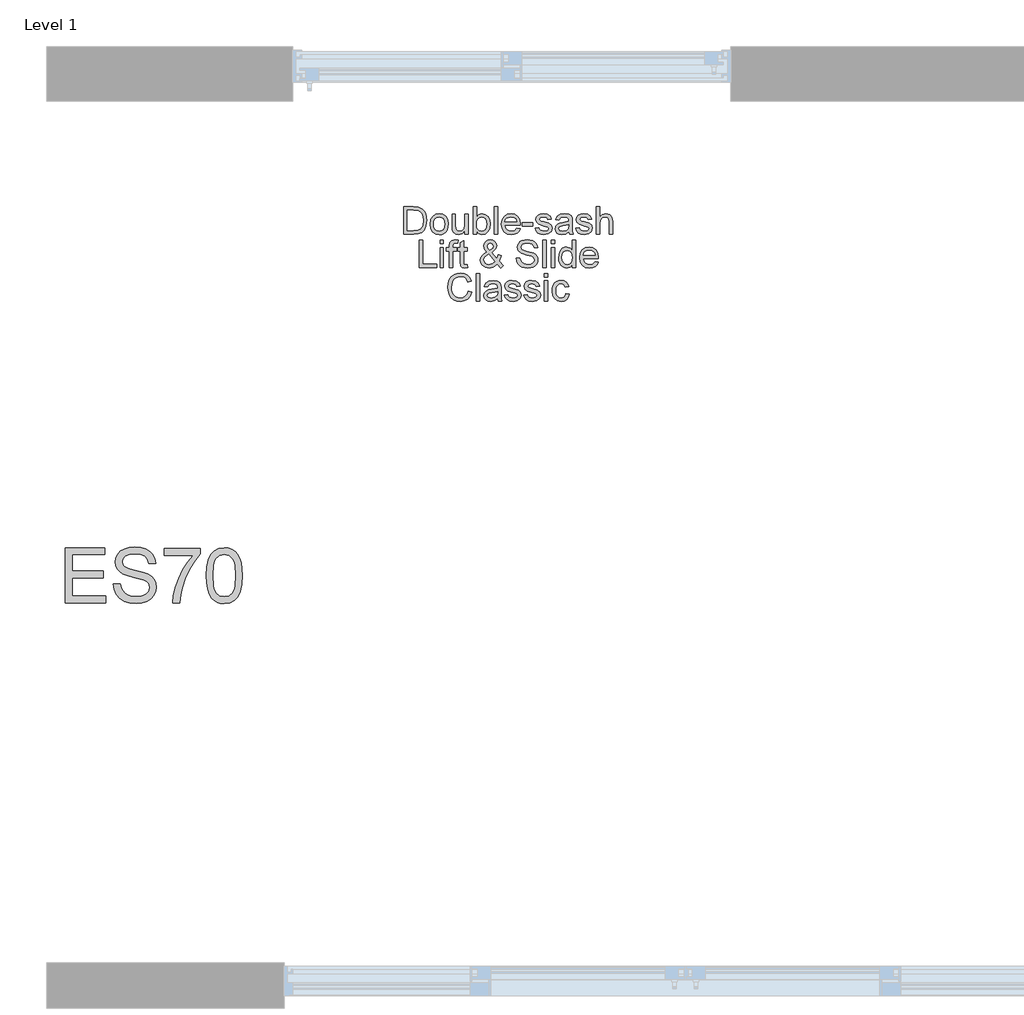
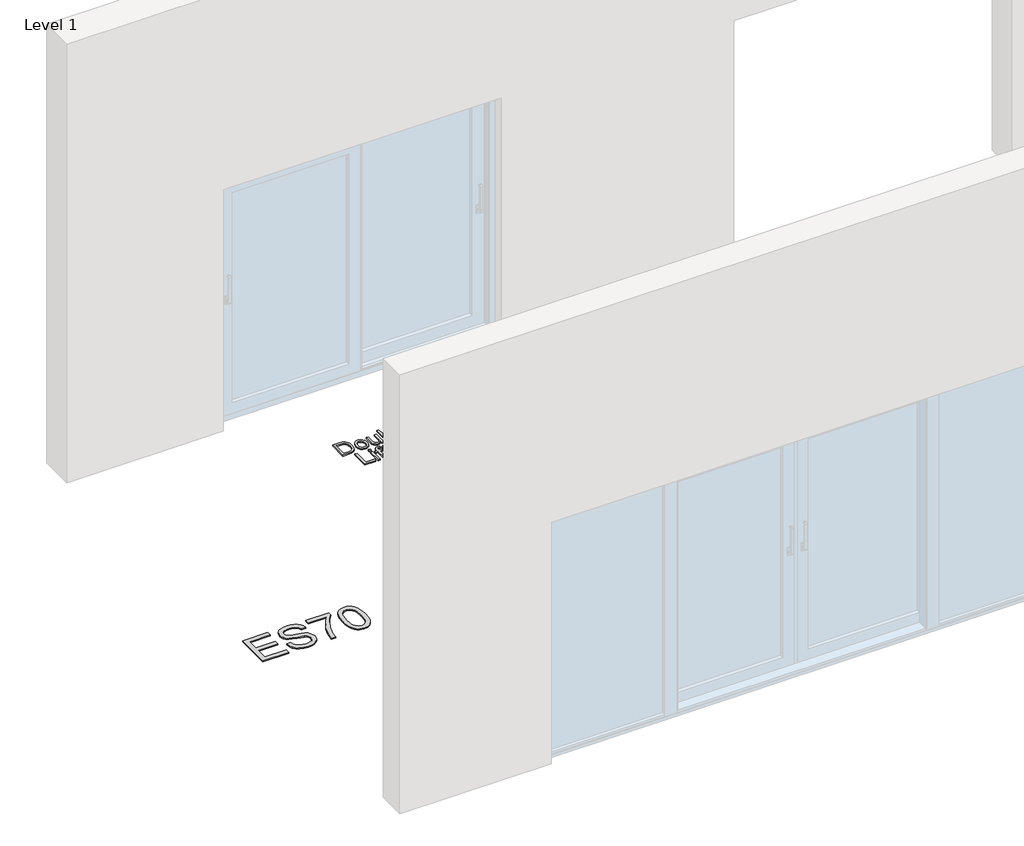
# One storey, part 2 of 13: 2 proxies.
"""IFC4 building model written with IfcOpenShell, lengths in millimetres."""

import ifcopenshell
import ifcopenshell.guid

model = None  # the IFC model being written
_history = None  # IfcOwnerHistory: only IFC2X3 demands one
_inside = {}  # id of a spatial element -> (the spatial element, [elements in it])
_under = {}  # id of a project, library or spatial element -> (it, [spatial elements below it])
_declared = {}  # id of a project -> (the project, [libraries it declares])
_typed = {}  # id of a type object -> (the type object, [elements of that type])
_made_of = {}  # id of a material, layer set ... -> (it, [elements and type objects made of it])


def new_model(schema):
    """Start an empty IFC model of exactly this schema.

    Asked for "IFC4X3", IfcOpenShell would pick the latest addendum, in which some entities
    have other attributes; the version numbers below select the first issue.
    IFC2X3 requires an IfcOwnerHistory on every rooted entity: one is made here for all.
    """
    global model, _history
    if schema == "IFC4X3":
        model = ifcopenshell.file(schema_version=(4, 3, 0, 0))
    else:
        model = ifcopenshell.file(schema=schema)
    _inside.clear()
    _under.clear()
    _declared.clear()
    _typed.clear()
    _made_of.clear()
    _history = None
    if model.schema == "IFC2X3":
        org = make("IfcOrganization", Name="unknown")
        user = make(
            "IfcPersonAndOrganization",
            ThePerson=make("IfcPerson", FamilyName="unknown"),
            TheOrganization=org,
        )
        app = make(
            "IfcApplication",
            ApplicationDeveloper=org,
            Version="unknown",
            ApplicationFullName="unknown",
            ApplicationIdentifier="unknown",
        )
        _history = make(
            "IfcOwnerHistory",
            OwningUser=user,
            OwningApplication=app,
            ChangeAction="ADDED",
            CreationDate=0,
        )
    return model


def make(cls, **values):
    """One entity of the class cls with the attributes given. An attribute that is None is left unset."""
    return model.create_entity(
        cls, **{name: value for name, value in values.items() if value is not None}
    )


def rooted(cls, **values):
    """An entity with a GlobalId (a new one), such as an element, a storey or a relation."""
    return make(cls, GlobalId=ifcopenshell.guid.new(), OwnerHistory=_history, **values)


def si_unit(unit_type, name, prefix=None):
    """IfcSIUnit, for example si_unit("LENGTHUNIT", "METRE", prefix="MILLI")."""
    return make("IfcSIUnit", UnitType=unit_type, Prefix=prefix, Name=name)


def assignment(units):
    """IfcUnitAssignment: the units of a project."""
    return None if units is None else make("IfcUnitAssignment", Units=units)


def point(xyz):
    """IfcCartesianPoint."""
    return None if xyz is None else make("IfcCartesianPoint", Coordinates=xyz)


def direction(xyz):
    """IfcDirection."""
    return None if xyz is None else make("IfcDirection", DirectionRatios=xyz)


def frame(location, z_axis=None, x_axis=None):
    """IfcAxis2Placement3D, a coordinate frame: its origin and axes. An axis left out is left unset."""
    return make(
        "IfcAxis2Placement3D",
        Location=point(location),
        Axis=direction(z_axis),
        RefDirection=direction(x_axis),
    )


def origin():
    """The frame at (0, 0, 0) with its axes left unset."""
    return frame((0.0, 0.0, 0.0))


def origin_with_axes():
    """The frame at (0, 0, 0) with the z axis (0, 0, 1) and the x axis (1, 0, 0) written out."""
    return frame((0.0, 0.0, 0.0), z_axis=(0.0, 0.0, 1.0), x_axis=(1.0, 0.0, 0.0))


def place(relative_to, where):
    """IfcLocalPlacement: puts the frame where relative to a parent placement (None: the world)."""
    return make(
        "IfcLocalPlacement", PlacementRelTo=relative_to, RelativePlacement=where
    )


def context(
    kind, dimensions, precision=None, world=None, true_north=None, identifier=None
):
    """IfcGeometricRepresentationContext, for example the 3D "Model" context."""
    return make(
        "IfcGeometricRepresentationContext",
        ContextIdentifier=identifier,
        ContextType=kind,
        CoordinateSpaceDimension=dimensions,
        Precision=precision,
        WorldCoordinateSystem=world,
        TrueNorth=true_north,
    )


def project(units=None, contexts=None):
    """IfcProject with its units and contexts."""
    return rooted(
        "IfcProject",
        Name="project",
        RepresentationContexts=contexts,
        UnitsInContext=assignment(units),
    )


def spatial(cls, under=None, at=None, **own):
    """A site, building, storey or space (cls), placed at a placement, below another one or the project."""
    s = rooted(cls, ObjectPlacement=at, **own)
    if under is not None:
        _under.setdefault(under.id(), (under, []))[1].append(s)
    return s


def polyline(points):
    """IfcPolyline through the points."""
    return make("IfcPolyline", Points=[point(p) for p in points])


def outline(outer, holes=None, kind="AREA"):
    """IfcArbitraryClosedProfileDef: a profile drawn as a closed curve; with holes, ...WithVoids."""
    if holes is None:
        return make("IfcArbitraryClosedProfileDef", ProfileType=kind, OuterCurve=outer)
    return make(
        "IfcArbitraryProfileDefWithVoids",
        ProfileType=kind,
        OuterCurve=outer,
        InnerCurves=holes,
    )


def extrude(swept, where, along, depth):
    """IfcExtrudedAreaSolid: the profile swept, set in the frame where, extruded along a direction by depth."""
    return make(
        "IfcExtrudedAreaSolid",
        SweptArea=swept,
        Position=where,
        ExtrudedDirection=direction(along),
        Depth=depth,
    )


def shape(context_of_items, identifier, shape_type, items):
    """IfcShapeRepresentation: the items that make up one representation, for example the "Body"."""
    return make(
        "IfcShapeRepresentation",
        ContextOfItems=context_of_items,
        RepresentationIdentifier=identifier,
        RepresentationType=shape_type,
        Items=items,
    )


def made_of(thing, what):
    """Note that an element or type object is made of a material, layer set ...; save() writes the relation."""
    if what is not None:
        _made_of.setdefault(what.id(), (what, []))[1].append(thing)
    return thing


def element(
    cls,
    number,
    at=None,
    inside=None,
    cuts=None,
    type_object=None,
    material=None,
    context=None,
    identifier="Body",
    shape_type=None,
    held_by="IfcProductDefinitionShape",
    body=None,
    shapes=None,
    **own,
):
    """One element of the class cls, such as IfcWall. Its Tag is "e" and its number.

    at: its placement. inside: the storey or other place that contains it. cuts: it is an
    opening in that element (IfcRelVoidsElement). A single representation is given by context,
    identifier, shape_type and body (its items); several are given by shapes. held_by: the class
    of the entity that holds the representations. save() writes the other relations.
    """
    e = rooted(cls, Tag="e%d" % number, ObjectPlacement=at, **own)
    if body is not None:
        shapes = [shape(context, identifier, shape_type, body)]
    if shapes is not None:
        e.Representation = make(held_by, Representations=shapes)
    if inside is not None:
        _inside.setdefault(inside.id(), (inside, []))[1].append(e)
    if cuts is not None:
        rooted(
            "IfcRelVoidsElement", RelatingBuildingElement=cuts, RelatedOpeningElement=e
        )
    if type_object is not None:
        _typed.setdefault(type_object.id(), (type_object, []))[1].append(e)
    return made_of(e, material)


def aggregate(whole, parts):
    """IfcRelAggregates: a whole, such as a stair, and the parts it consists of."""
    return rooted("IfcRelAggregates", RelatingObject=whole, RelatedObjects=parts)


def save(model, path):
    """Write the relations noted so far, then the file.

    IfcRelAggregates (storeys below a building ...), IfcRelContainedInSpatialStructure (elements
    in a storey), IfcRelDefinesByType, IfcRelAssociatesMaterial and IfcRelDeclares: one each for
    every whole, place, type object, material and project.
    """
    for whole, parts in _under.values():
        aggregate(whole, parts)
    for where, things in _inside.values():
        rooted(
            "IfcRelContainedInSpatialStructure",
            RelatedElements=things,
            RelatingStructure=where,
        )
    for kind, things in _typed.values():
        rooted("IfcRelDefinesByType", RelatedObjects=things, RelatingType=kind)
    for what, things in _made_of.values():
        rooted("IfcRelAssociatesMaterial", RelatedObjects=things, RelatingMaterial=what)
    for by, libraries in _declared.values():
        rooted("IfcRelDeclares", RelatingContext=by, RelatedDefinitions=libraries)
    model.write(path)


model = new_model("IFC4")

# Units and contexts
model_context = context("Model", 3, world=origin())
ifc_project = project(units=[si_unit("LENGTHUNIT", "METRE", prefix="MILLI")], contexts=[model_context])

# Site, building, storey
site = spatial("IfcSite", under=ifc_project)
building = spatial("IfcBuilding", under=site)
storey = spatial("IfcBuildingStorey", under=building, Name="Level 1", Elevation=0.0)

# Proxies
placement = place(None, origin())
element("IfcBuildingElementProxy", 1, Name="150mm Arial", ObjectType="150mm Arial", at=placement, inside=storey, context=model_context, shape_type="SweptSolid", body=[
    extrude(outline(polyline([(-6211.5990485, -897.6627533), (-6211.5990485, -746.9782881), (-6159.6173226, -746.9782881), (-6132.7251487, -749.1487919), (-6110.5786526, -759.9277343), (-6100.1583951, -771.4056526), (-6092.7363758, -785.679474), (-6088.2942007, -802.4732871), (-6086.8134757, -821.5111803), (-6090.8233895, -851.9166272), (-6101.1240853, -873.8607883), (-6114.8828719, -887.5276044), (-6132.8906956, -895.0875794), (-6157.115725, -897.6627533), (-6211.5990485, -897.6627533)]), holes=[polyline([(-6192.7634903, -878.8271952), (-6159.4333816, -878.8271952), (-6135.1899581, -876.1048684), (-6121.2104423, -868.4161347), (-6109.7509181, -849.7093353), (-6105.6490339, -821.2168747), (-6107.6585893, -800.6890594), (-6113.6872555, -785.5323212), (-6122.5945983, -775.1212607), (-6133.2401835, -768.8304786), (-6159.9484164, -765.8138463), (-6192.7634903, -765.8138463), (-6192.7634903, -878.8271952)])]), origin_with_axes(), (0.0, 0.0, 1.0), 10.0),
    extrude(outline(polyline([(-6067.9779176, -842.3333013), (-6063.9036245, -815.6526596), (-6051.6807452, -796.8998749), (-6036.5791893, -787.712022), (-6018.4977892, -784.6494044), (-5998.7103364, -788.3788081), (-5982.9052062, -799.5670193), (-5972.5447295, -817.3311212), (-5969.0912373, -840.7881969), (-5970.6179475, -859.8168931), (-5975.1980784, -874.3022466), (-5982.6982726, -885.150167), (-5992.9851728, -893.2665635), (-6005.2034536, -898.3295395), (-6018.4977892, -900.0171981), (-6038.5243653, -896.30159), (-6054.3111014, -885.1547655), (-6064.5612135, -867.0181831), (-6067.9779176, -842.3333013)]), holes=[polyline([(-6049.1423594, -842.2965131), (-6046.9626586, -859.343245), (-6040.4235561, -871.4879494), (-6030.5827127, -878.7582173), (-6018.4977892, -881.18164), (-6006.468048, -878.7444217), (-5996.6455987, -871.4327671), (-5990.1064962, -859.1271143), (-5987.9267954, -841.7079019), (-5990.1202918, -825.1578106), (-5996.700781, -813.1786531), (-6006.5370258, -805.9083852), (-6018.4977892, -803.4849626), (-6030.5827127, -805.8991882), (-6040.4235561, -813.141865), (-6046.9626586, -825.2589782), (-6049.1423594, -842.2965131)])]), origin_with_axes(), (0.0, 0.0, 1.0), 10.0),
    extrude(outline(polyline([(-5877.2678913, -897.6627533), (-5877.2678913, -878.6432542), (-5892.0199593, -894.6737121), (-5911.2601876, -900.0171981), (-5928.9737057, -896.2648018), (-5941.1873879, -886.8470227), (-5946.7975883, -872.9778715), (-5947.9012343, -855.4666885), (-5947.9012343, -787.0038492), (-5929.0656762, -787.0038492), (-5929.0656762, -846.6007324), (-5927.925242, -865.8041726), (-5920.4756316, -877.0797557), (-5906.4409335, -881.18164), (-5890.7139782, -876.9877852), (-5880.3213118, -865.5650493), (-5877.2678913, -844.5773814), (-5877.2678913, -787.0038492), (-5858.4323331, -787.0038492), (-5858.4323331, -897.6627533), (-5877.2678913, -897.6627533)])), origin_with_axes(), (0.0, 0.0, 1.0), 10.0),
    extrude(outline(polyline([(-5813.6978825, -897.6627533), (-5832.5334406, -897.6627533), (-5832.5334406, -746.9782881), (-5813.6978825, -746.9782881), (-5813.6978825, -802.8595632), (-5800.509313, -789.2019441), (-5784.1201701, -784.6494044), (-5765.2478237, -788.7512887), (-5750.6061203, -800.2843892), (-5741.6114055, -818.2186365), (-5738.3556499, -840.6778323), (-5741.7263687, -865.8225667), (-5751.838525, -884.5293661), (-5766.677965, -896.1452401), (-5784.2305347, -900.0171981), (-5800.9783625, -895.0232), (-5813.6978825, -880.0412058), (-5813.6978825, -897.6627533)]), holes=[polyline([(-5813.6978825, -841.5607491), (-5812.4102955, -857.2693103), (-5808.5475346, -867.9010999), (-5798.6791, -877.861505), (-5785.8492155, -881.18164), (-5774.9783025, -878.7352247), (-5765.6892821, -871.3959789), (-5759.3157266, -859.2098878), (-5757.191208, -842.2229367), (-5759.2283546, -824.9876652), (-5765.3397942, -812.9395299), (-5774.3391075, -805.8486044), (-5785.0398751, -803.4849626), (-5795.910788, -805.9313778), (-5805.1998084, -813.2706236), (-5811.573364, -825.2359855), (-5813.6978825, -841.5607491)])]), origin_with_axes(), (0.0, 0.0, 1.0), 10.0),
    extrude(outline(polyline([(-5717.165647, -897.6627533), (-5717.165647, -746.9782881), (-5698.3300888, -746.9782881), (-5698.3300888, -897.6627533), (-5717.165647, -897.6627533)])), origin_with_axes(), (0.0, 0.0, 1.0), 10.0),
    extrude(outline(polyline([(-5592.6008034, -864.7005266), (-5574.1331272, -867.0549713), (-5580.7871928, -880.9701078), (-5591.4051869, -891.3719712), (-5605.7479862, -897.8558914), (-5623.5764674, -900.0171981), (-5645.6769782, -896.2877944), (-5662.6823235, -885.0995832), (-5673.5256453, -867.1791315), (-5677.1400859, -843.2530063), (-5673.4888571, -818.5221391), (-5662.5351707, -800.0268718), (-5645.7597517, -788.4937713), (-5624.6433252, -784.6494044), (-5604.1844877, -788.4845742), (-5587.8367316, -799.9900836), (-5577.1175699, -818.4485627), (-5573.544516, -843.1426417), (-5573.6548806, -848.2194132), (-5658.3045277, -848.2194132), (-5655.0441735, -862.3184907), (-5647.470403, -872.6835659), (-5636.5397092, -879.0571214), (-5623.2085854, -881.18164), (-5604.7409092, -877.2453026), (-5592.6008034, -864.7005266)]), holes=[polyline([(-5658.3045277, -829.383855), (-5592.3800742, -829.383855), (-5594.927657, -819.4326471), (-5599.9216551, -812.3141305), (-5610.9029326, -805.6922545), (-5624.7169016, -803.4849626), (-5637.4134289, -805.2461976), (-5647.9118614, -810.5299028), (-5655.2097204, -818.765861), (-5658.3045277, -829.383855)])]), origin_with_axes(), (0.0, 0.0, 1.0), 10.0),
    extrude(outline(polyline([(-5564.126737, -852.9283027), (-5564.126737, -834.0927446), (-5505.2656177, -834.0927446), (-5505.2656177, -852.9283027), (-5564.126737, -852.9283027)])), origin_with_axes(), (0.0, 0.0, 1.0), 10.0),
    extrude(outline(polyline([(-5491.1389491, -864.7005266), (-5472.303391, -862.3460818), (-5469.3327439, -870.4026975), (-5463.5845877, -876.3255976), (-5443.6085953, -881.18164), (-5424.4051552, -876.7302678), (-5418.1511613, -866.2824192), (-5419.7238568, -861.4815591), (-5424.4419434, -857.8211333), (-5443.8293245, -852.4500561), (-5472.1930264, -843.2346122), (-5484.5722555, -832.4740638), (-5488.7845044, -817.2805374), (-5485.39999, -803.2458393), (-5476.1661519, -792.5220791), (-5464.191593, -786.9486669), (-5447.9863911, -784.6494044), (-5425.0673428, -788.3466185), (-5410.4992158, -798.3530087), (-5404.0244927, -815.2571864), (-5422.8600508, -817.6116312), (-5429.9417792, -807.2189648), (-5446.5148631, -803.4849626), (-5464.5410809, -807.0534179), (-5469.9489462, -815.367551), (-5467.704866, -820.8489927), (-5460.6783199, -825.0060593), (-5444.4547239, -829.015973), (-5416.808392, -837.8819291), (-5403.9693104, -847.9251076), (-5399.3156031, -864.2958564), (-5404.7786508, -882.3220741), (-5420.5423942, -895.4002791), (-5443.8661127, -900.0171981), (-5462.8580207, -897.791512), (-5476.7179749, -891.1144538), (-5485.9702071, -880.0595999), (-5491.1389491, -864.7005266)])), origin_with_axes(), (0.0, 0.0, 1.0), 10.0),
    extrude(outline(polyline([(-5307.4922571, -883.5360847), (-5325.7575982, -896.30159), (-5345.9359256, -900.0171981), (-5361.6766765, -897.782315), (-5373.287952, -891.0776656), (-5380.4478553, -880.8965314), (-5382.8344897, -868.2321937), (-5379.2292462, -853.3329729), (-5369.7562848, -842.5172423), (-5356.5677153, -836.3368247), (-5340.2705429, -833.5041334), (-5307.6026217, -827.0294103), (-5307.4922571, -822.8355555), (-5308.7890412, -814.4294519), (-5312.6793933, -808.9296161), (-5321.3798024, -804.846126), (-5333.5015142, -803.4849626), (-5352.5578015, -807.1086002), (-5361.6444868, -819.966076), (-5380.480045, -817.6116312), (-5372.3314588, -799.2175314), (-5355.9239218, -788.438589), (-5331.073493, -784.6494044), (-5308.2464152, -787.9971306), (-5295.3521513, -796.4032342), (-5289.576404, -809.1871335), (-5288.656699, -825.6682469), (-5288.656699, -849.10233), (-5287.7002058, -881.8254334), (-5283.9478094, -897.6627533), (-5302.7833676, -897.6627533), (-5307.4922571, -883.5360847)]), holes=[polyline([(-5307.4922571, -845.8649684), (-5337.8793099, -851.6407157), (-5354.0845118, -854.6941363), (-5361.4237576, -859.6605432), (-5363.9989316, -866.9078185), (-5358.3887312, -877.0981498), (-5341.9260119, -881.18164), (-5322.8697245, -876.6750855), (-5310.5824659, -865.7673844), (-5307.6026217, -851.1992574), (-5307.4922571, -845.8649684)])]), origin_with_axes(), (0.0, 0.0, 1.0), 10.0),
    extrude(outline(polyline([(-5269.8211408, -864.7005266), (-5250.9855827, -862.3460818), (-5248.0149356, -870.4026975), (-5242.2667794, -876.3255976), (-5222.290787, -881.18164), (-5203.0873469, -876.7302678), (-5196.833353, -866.2824192), (-5198.4060485, -861.4815591), (-5203.1241351, -857.8211333), (-5222.5115162, -852.4500561), (-5250.8752181, -843.2346122), (-5263.2544472, -832.4740638), (-5267.4666961, -817.2805374), (-5264.0821817, -803.2458393), (-5254.8483436, -792.5220791), (-5242.8737847, -786.9486669), (-5226.6685828, -784.6494044), (-5203.7495345, -788.3466185), (-5189.1814075, -798.3530087), (-5182.7066844, -815.2571864), (-5201.5422425, -817.6116312), (-5208.6239709, -807.2189648), (-5225.1970548, -803.4849626), (-5243.2232726, -807.0534179), (-5248.6311379, -815.367551), (-5246.3870577, -820.8489927), (-5239.3605116, -825.0060593), (-5223.1369156, -829.015973), (-5195.4905837, -837.8819291), (-5182.6515021, -847.9251076), (-5177.9977948, -864.2958564), (-5183.4608425, -882.3220741), (-5199.2245859, -895.4002791), (-5222.5483044, -900.0171981), (-5241.5402124, -897.791512), (-5255.4001666, -891.1144538), (-5264.6523988, -880.0595999), (-5269.8211408, -864.7005266)])), origin_with_axes(), (0.0, 0.0, 1.0), 10.0),
    extrude(outline(polyline([(-5156.8077919, -897.6627533), (-5156.8077919, -746.9782881), (-5137.9722338, -746.9782881), (-5137.9722338, -802.3813166), (-5123.2845451, -789.0823825), (-5105.193948, -784.6494044), (-5084.0407333, -789.4870527), (-5071.2016516, -802.8595632), (-5067.3388907, -827.6180215), (-5067.3388907, -897.6627533), (-5086.1744488, -897.6627533), (-5086.1744488, -829.567796), (-5087.673568, -817.7771781), (-5092.1709254, -809.7021683), (-5099.4182007, -805.039264), (-5109.1670735, -803.4849626), (-5124.5997232, -807.6788173), (-5134.9004191, -819.046371), (-5137.9722338, -838.8752105), (-5137.9722338, -897.6627533), (-5156.8077919, -897.6627533)])), origin_with_axes(), (0.0, 0.0, 1.0), 10.0),
    extrude(outline(polyline([(-6126.8390368, -1080.6249801), (-6126.8390368, -929.9405149), (-6108.0034786, -929.9405149), (-6108.0034786, -1061.789422), (-6032.661246, -1061.789422), (-6032.661246, -1080.6249801), (-6126.8390368, -1080.6249801)])), origin_with_axes(), (0.0, 0.0, 1.0), 10.0),
    extrude(outline(polyline([(-6013.8256879, -948.776073), (-6013.8256879, -929.9405149), (-5994.9901297, -929.9405149), (-5994.9901297, -948.776073), (-6013.8256879, -948.776073)])), origin_with_axes(), (0.0, 0.0, 1.0), 10.0),
    extrude(outline(polyline([(-6013.8256879, -1080.6249801), (-6013.8256879, -969.966076), (-5994.9901297, -969.966076), (-5994.9901297, -1080.6249801), (-6013.8256879, -1080.6249801)])), origin_with_axes(), (0.0, 0.0, 1.0), 10.0),
    extrude(outline(polyline([(-5962.0279029, -1080.6249801), (-5962.0279029, -988.8016341), (-5978.5090163, -988.8016341), (-5978.5090163, -969.966076), (-5962.0279029, -969.966076), (-5962.0279029, -958.8192515), (-5960.0413402, -943.1106903), (-5950.4028319, -931.8902895), (-5931.4201209, -927.5860701), (-5914.2400318, -929.6462093), (-5916.9991467, -947.3045451), (-5927.8516656, -946.4216283), (-5939.7158599, -949.5486252), (-5943.1923448, -961.2104845), (-5943.1923448, -969.966076), (-5922.0023419, -969.966076), (-5922.0023419, -988.8016341), (-5943.1923448, -988.8016341), (-5943.1923448, -1080.6249801), (-5962.0279029, -1080.6249801)])), origin_with_axes(), (0.0, 0.0, 1.0), 10.0),
    extrude(outline(polyline([(-5865.4956674, -1064.9164189), (-5863.1412226, -1081.1768031), (-5877.2311031, -1082.9794249), (-5893.0132407, -1079.8524279), (-5900.8859153, -1071.6486594), (-5903.1667837, -1050.2747155), (-5903.1667837, -988.8016341), (-5917.2934523, -988.8016341), (-5917.2934523, -969.966076), (-5903.1667837, -969.966076), (-5903.1667837, -943.0739021), (-5884.3312256, -932.0006541), (-5884.3312256, -969.966076), (-5865.4956674, -969.966076), (-5865.4956674, -988.8016341), (-5884.3312256, -988.8016341), (-5884.3312256, -1049.7228925), (-5883.3379442, -1059.4349772), (-5880.1189767, -1062.8746738), (-5873.6994359, -1064.1438667), (-5865.4956674, -1064.9164189)])), origin_with_axes(), (0.0, 0.0, 1.0), 10.0),
    extrude(outline(polyline([(-5701.3835094, -1062.0101512), (-5721.3595017, -1077.7371064), (-5744.7200084, -1082.9794249), (-5765.5053411, -1079.0982698), (-5781.5082079, -1067.4548047), (-5789.7579617, -1054.054703), (-5792.5078796, -1039.1646793), (-5790.2959891, -1025.9669127), (-5783.6603176, -1014.1119154), (-5772.6284563, -1003.6088844), (-5757.2279962, -994.4670168), (-5770.3797776, -975.4107295), (-5773.6723214, -961.2840609), (-5771.0787533, -948.5645409), (-5763.2980492, -937.6292486), (-5751.5902047, -930.0968647), (-5737.2152157, -927.5860701), (-5723.5392025, -929.9865001), (-5712.6039102, -937.1877902), (-5705.4302113, -947.7552005), (-5703.0389783, -960.2539913), (-5704.8094104, -970.7478252), (-5710.1207067, -980.4507128), (-5731.365892, -997.4836492), (-5704.1058361, -1031.4391574), (-5695.975644, -1010.5802482), (-5677.1400859, -1014.6637384), (-5690.4574141, -1045.6761906), (-5667.7223068, -1068.4848743), (-5681.8489754, -1082.9794249), (-5701.3835094, -1062.0101512)]), holes=[polyline([(-5740.8940356, -985.6010608), (-5725.4062036, -973.9208074), (-5721.8745365, -962.8291653), (-5726.5282437, -951.0017591), (-5738.1717089, -946.4216283), (-5750.0726914, -950.9649709), (-5754.8367633, -962.0566131), (-5753.2180825, -968.9544005), (-5748.3252519, -976.6247401), (-5740.8940356, -985.6010608)]), polyline([(-5714.0018618, -1048.4353055), (-5747.6262762, -1006.4599699), (-5768.3196384, -1022.2421075), (-5773.6723214, -1036.6630817), (-5771.8421085, -1045.5474319), (-5766.3514697, -1054.7628758), (-5757.5039077, -1061.798619), (-5745.6029252, -1064.1438667), (-5728.2940773, -1059.766071), (-5714.0018618, -1048.4353055)])]), origin_with_axes(), (0.0, 0.0, 1.0), 10.0),
    extrude(outline(polyline([(-5594.734519, -1028.8271952), (-5575.8989608, -1028.8271952), (-5569.8289079, -1047.6811474), (-5555.0032635, -1059.6005241), (-5532.415309, -1064.1438667), (-5512.7336222, -1060.7041701), (-5500.0232993, -1051.2496028), (-5495.8478387, -1038.6128563), (-5498.9748356, -1026.8590265), (-5511.777129, -1018.3057701), (-5539.2027318, -1011.1136771), (-5568.7252619, -1001.8246567), (-5584.7465228, -987.8083527), (-5590.0256294, -969.0831592), (-5588.3931531, -958.0512978), (-5583.495724, -947.7643976), (-5575.4621009, -939.0455943), (-5564.4210426, -932.7180239), (-5536.4987991, -927.5860701), (-5506.7003575, -932.9571472), (-5495.2776216, -939.5882202), (-5486.8347298, -948.7392848), (-5481.4912438, -959.840124), (-5479.3667253, -972.3205207), (-5498.2022834, -972.3205207), (-5501.6603742, -961.0817258), (-5508.8708613, -952.9699278), (-5520.1372474, -948.0587031), (-5535.7630351, -946.4216283), (-5551.7567049, -948.040309), (-5562.7287854, -952.8963514), (-5569.0747498, -960.0424591), (-5571.1900713, -968.5313362), (-5569.6909521, -975.7694144), (-5565.1935947, -981.591147), (-5534.43866, -992.1125721), (-5501.1085512, -1001.5671393), (-5490.3709955, -1008.4005474), (-5482.8799983, -1016.8342421), (-5478.47921, -1026.7762531), (-5477.0122805, -1038.1346097), (-5478.6999392, -1049.7458851), (-5483.7629151, -1060.6673819), (-5491.9942748, -1070.0667668), (-5503.1870845, -1077.1117071), (-5516.646967, -1081.5124954), (-5531.679545, -1082.9794249), (-5550.1334256, -1081.3975323), (-5565.3223534, -1076.6518546), (-5577.4210726, -1068.7239976), (-5586.6043269, -1057.5955672), (-5592.4996358, -1044.0391157), (-5594.734519, -1028.8271952)])), origin_with_axes(), (0.0, 0.0, 1.0), 10.0),
    extrude(outline(polyline([(-5451.113388, -1080.6249801), (-5451.113388, -929.9405149), (-5432.2778299, -929.9405149), (-5432.2778299, -1080.6249801), (-5451.113388, -1080.6249801)])), origin_with_axes(), (0.0, 0.0, 1.0), 10.0),
    extrude(outline(polyline([(-5404.0244927, -948.776073), (-5404.0244927, -929.9405149), (-5385.1889345, -929.9405149), (-5385.1889345, -948.776073), (-5404.0244927, -948.776073)])), origin_with_axes(), (0.0, 0.0, 1.0), 10.0),
    extrude(outline(polyline([(-5404.0244927, -1080.6249801), (-5404.0244927, -969.966076), (-5385.1889345, -969.966076), (-5385.1889345, -1080.6249801), (-5404.0244927, -1080.6249801)])), origin_with_axes(), (0.0, 0.0, 1.0), 10.0),
    extrude(outline(polyline([(-5288.656699, -1080.6249801), (-5288.656699, -1062.8562797), (-5301.1187016, -1077.9486386), (-5318.344776, -1082.9794249), (-5330.52167, -1081.158409), (-5341.6684945, -1075.6953614), (-5351.1046677, -1066.9719596), (-5358.1496079, -1055.3698811), (-5362.5366007, -1041.3581756), (-5363.9989316, -1025.4058926), (-5358.6094604, -995.42351), (-5351.8772198, -983.5317245), (-5342.4594408, -974.7853301), (-5331.0688945, -969.4050559), (-5318.4183524, -967.6116312), (-5301.0543222, -972.743585), (-5288.656699, -986.0793073), (-5288.656699, -929.9405149), (-5269.8211408, -929.9405149), (-5269.8211408, -1080.6249801), (-5288.656699, -1080.6249801)]), holes=[polyline([(-5345.1633734, -1025.3323162), (-5343.0388549, -1042.3698511), (-5336.6652993, -1054.4869644), (-5327.4038701, -1061.7296411), (-5316.6157306, -1064.1438667), (-5305.8321896, -1061.8400057), (-5296.8052852, -1054.9284227), (-5290.6938455, -1043.2803591), (-5288.656699, -1026.767056), (-5290.7306337, -1008.7132471), (-5296.952438, -996.1960622), (-5306.2092687, -988.8844076), (-5317.3882828, -986.4471893), (-5328.2867869, -988.7878385), (-5337.2171223, -995.8097861), (-5343.1768107, -1007.871717), (-5345.1633734, -1025.3323162)])]), origin_with_axes(), (0.0, 0.0, 1.0), 10.0),
    extrude(outline(polyline([(-5164.0918554, -1047.6627533), (-5145.6241792, -1050.0171981), (-5152.2782448, -1063.9323346), (-5162.8962389, -1074.334198), (-5177.2390382, -1080.8181182), (-5195.0675194, -1082.9794249), (-5217.1680303, -1079.2500212), (-5234.1733755, -1068.06181), (-5245.0166973, -1050.1413583), (-5248.6311379, -1026.215233), (-5244.9799091, -1001.4843659), (-5234.0262227, -982.9890986), (-5217.2508037, -971.455998), (-5196.1343772, -967.6116312), (-5175.6755397, -971.446801), (-5159.3277836, -982.9523104), (-5148.6086219, -1001.4107895), (-5145.0355681, -1026.1048684), (-5145.1459327, -1031.18164), (-5229.7955797, -1031.18164), (-5226.5352256, -1045.2807174), (-5218.961455, -1055.6457926), (-5208.0307612, -1062.0193482), (-5194.6996374, -1064.1438667), (-5176.2319612, -1060.2075294), (-5164.0918554, -1047.6627533)]), holes=[polyline([(-5229.7955797, -1012.3460818), (-5163.8711262, -1012.3460818), (-5166.418709, -1002.3948738), (-5171.4127071, -995.2763572), (-5182.3939847, -988.6544813), (-5196.2079536, -986.4471893), (-5208.9044809, -988.2084244), (-5219.4029134, -993.4921296), (-5226.7007725, -1001.7280877), (-5229.7955797, -1012.3460818)])]), origin_with_axes(), (0.0, 0.0, 1.0), 10.0),
    extrude(outline(polyline([(-5858.4323331, -1210.0235884), (-5839.596775, -1214.8796307), (-5848.2879871, -1236.8283903), (-5861.9272121, -1252.8634467), (-5879.8430652, -1262.6721004), (-5901.3641619, -1265.9416516), (-5923.2117539, -1263.4676452), (-5940.5619885, -1256.045626), (-5953.8609227, -1243.9331113), (-5963.5546132, -1227.3876186), (-5969.4729148, -1207.9358581), (-5971.445682, -1187.1045401), (-5969.2153974, -1165.1327879), (-5962.5245436, -1146.159274), (-5951.7226086, -1130.7864051), (-5937.1590801, -1119.6165881), (-5919.8870204, -1112.8153697), (-5900.9594917, -1110.5482969), (-5880.3075162, -1113.4821558), (-5863.2331931, -1122.2837325), (-5850.2699513, -1136.4104011), (-5841.9512197, -1155.3195357), (-5860.7867779, -1159.807696), (-5867.3166833, -1146.071902), (-5876.2378217, -1136.6495244), (-5887.6605576, -1131.2002724), (-5901.6952557, -1129.383855), (-5917.8728665, -1131.398009), (-5931.1626036, -1137.4404707), (-5941.2471687, -1146.8766439), (-5947.8092638, -1159.071932), (-5952.6101239, -1187.0677519), (-5951.1891797, -1204.4685703), (-5946.926347, -1219.5149439), (-5939.6606776, -1231.6320571), (-5929.2312231, -1240.2450943), (-5916.7278338, -1245.3908437), (-5903.2403601, -1247.1060935), (-5887.5180033, -1244.7700428), (-5874.4168058, -1237.7618908), (-5864.5253786, -1226.1552139), (-5858.4323331, -1210.0235884)])), origin_with_axes(), (0.0, 0.0, 1.0), 10.0),
    extrude(outline(polyline([(-5816.0523273, -1263.5872069), (-5816.0523273, -1112.9027417), (-5797.2167691, -1112.9027417), (-5797.2167691, -1263.5872069), (-5816.0523273, -1263.5872069)])), origin_with_axes(), (0.0, 0.0, 1.0), 10.0),
    extrude(outline(polyline([(-5698.3300888, -1249.4605383), (-5716.5954299, -1262.2260435), (-5736.7737573, -1265.9416516), (-5752.5145082, -1263.7067685), (-5764.1257836, -1257.0021192), (-5771.285687, -1246.8209849), (-5773.6723214, -1234.1566473), (-5770.0670779, -1219.2574265), (-5760.5941165, -1208.4416958), (-5747.405547, -1202.2612783), (-5731.1083746, -1199.4285869), (-5698.4404534, -1192.9538638), (-5698.3300888, -1188.7600091), (-5699.6268728, -1180.3539055), (-5703.5172249, -1174.8540696), (-5712.2176341, -1170.7705795), (-5724.3393459, -1169.4094161), (-5743.3956332, -1173.0330538), (-5752.4823185, -1185.8905295), (-5771.3178766, -1183.5360847), (-5763.1692905, -1165.141985), (-5746.7617535, -1154.3630425), (-5721.9113247, -1150.573858), (-5699.0842469, -1153.9215841), (-5686.189983, -1162.3276877), (-5680.4142356, -1175.111587), (-5679.4945307, -1191.5927004), (-5679.4945307, -1215.0267835), (-5678.5380375, -1247.749887), (-5674.7856411, -1263.5872069), (-5693.6211993, -1263.5872069), (-5698.3300888, -1249.4605383)]), holes=[polyline([(-5698.3300888, -1211.789422), (-5728.7171416, -1217.5651693), (-5744.9223435, -1220.6185898), (-5752.2615893, -1225.5849968), (-5754.8367633, -1232.8322721), (-5749.2265628, -1243.0226033), (-5732.7638436, -1247.1060935), (-5713.7075562, -1242.5995391), (-5701.4202976, -1231.6918379), (-5698.4404534, -1217.1237109), (-5698.3300888, -1211.789422)])]), origin_with_axes(), (0.0, 0.0, 1.0), 10.0),
    extrude(outline(polyline([(-5660.6589725, -1230.6249801), (-5641.8234143, -1228.2705353), (-5638.8527672, -1236.327151), (-5633.1046111, -1242.2500512), (-5613.1286187, -1247.1060935), (-5593.9251786, -1242.6547214), (-5587.6711847, -1232.2068727), (-5589.2438802, -1227.4060127), (-5593.9619668, -1223.7455868), (-5613.3493479, -1218.3745097), (-5641.7130497, -1209.1590657), (-5654.0922789, -1198.3985173), (-5658.3045277, -1183.2049909), (-5654.9200134, -1169.1702928), (-5645.6861753, -1158.4465327), (-5633.7116164, -1152.8731204), (-5617.5064145, -1150.573858), (-5594.5873662, -1154.271072), (-5580.0192392, -1164.2774623), (-5573.544516, -1181.18164), (-5592.3800742, -1183.5360847), (-5599.4618026, -1173.1434184), (-5616.0348865, -1169.4094161), (-5634.0611042, -1172.9778715), (-5639.4689696, -1181.2920046), (-5637.2248894, -1186.7734463), (-5630.1983433, -1190.9305128), (-5613.9747473, -1194.9404266), (-5586.3284154, -1203.8063827), (-5573.4893337, -1213.8495611), (-5568.8356265, -1230.2203099), (-5574.2986741, -1248.2465277), (-5590.0624176, -1261.3247326), (-5613.3861361, -1265.9416516), (-5632.3780441, -1263.7159656), (-5646.2379983, -1257.0389074), (-5655.4902305, -1245.9840534), (-5660.6589725, -1230.6249801)])), origin_with_axes(), (0.0, 0.0, 1.0), 10.0),
    extrude(outline(polyline([(-5554.7089579, -1230.6249801), (-5535.8733997, -1228.2705353), (-5532.9027526, -1236.327151), (-5527.1545964, -1242.2500512), (-5507.1786041, -1247.1060935), (-5487.975164, -1242.6547214), (-5481.72117, -1232.2068727), (-5483.2938656, -1227.4060127), (-5488.0119522, -1223.7455868), (-5507.3993333, -1218.3745097), (-5535.7630351, -1209.1590657), (-5548.1422643, -1198.3985173), (-5552.3545131, -1183.2049909), (-5548.9699988, -1169.1702928), (-5539.7361607, -1158.4465327), (-5527.7616017, -1152.8731204), (-5511.5563999, -1150.573858), (-5488.6373516, -1154.271072), (-5474.0692245, -1164.2774623), (-5467.5945014, -1181.18164), (-5486.4300596, -1183.5360847), (-5493.511788, -1173.1434184), (-5510.0848719, -1169.4094161), (-5528.1110896, -1172.9778715), (-5533.518955, -1181.2920046), (-5531.2748748, -1186.7734463), (-5524.2483287, -1190.9305128), (-5508.0247327, -1194.9404266), (-5480.3784008, -1203.8063827), (-5467.5393191, -1213.8495611), (-5462.8856119, -1230.2203099), (-5468.3486595, -1248.2465277), (-5484.112403, -1261.3247326), (-5507.4361215, -1265.9416516), (-5526.4280295, -1263.7159656), (-5540.2879837, -1257.0389074), (-5549.5402159, -1245.9840534), (-5554.7089579, -1230.6249801)])), origin_with_axes(), (0.0, 0.0, 1.0), 10.0),
    extrude(outline(polyline([(-5441.695609, -1131.7382998), (-5441.695609, -1112.9027417), (-5422.8600508, -1112.9027417), (-5422.8600508, -1131.7382998), (-5441.695609, -1131.7382998)])), origin_with_axes(), (0.0, 0.0, 1.0), 10.0),
    extrude(outline(polyline([(-5441.695609, -1263.5872069), (-5441.695609, -1152.9283027), (-5422.8600508, -1152.9283027), (-5422.8600508, -1263.5872069), (-5441.695609, -1263.5872069)])), origin_with_axes(), (0.0, 0.0, 1.0), 10.0),
    extrude(outline(polyline([(-5323.9733705, -1223.5616458), (-5305.1378124, -1225.9160906), (-5310.3893278, -1242.6685169), (-5320.2577624, -1255.3282561), (-5333.8142139, -1263.2883028), (-5350.1297804, -1265.9416516), (-5370.1655535, -1262.2398391), (-5385.832728, -1251.1344013), (-5395.9448843, -1233.1127821), (-5399.3156031, -1208.662425), (-5397.8762648, -1191.9008016), (-5393.5582499, -1177.3740613), (-5386.2925805, -1165.6432242), (-5376.0102787, -1157.2693103), (-5363.7092245, -1152.247721), (-5350.3872978, -1150.573858), (-5334.4718029, -1152.8731204), (-5321.7476844, -1159.7709078), (-5312.6196124, -1170.8993382), (-5307.4922571, -1185.8905295), (-5326.3278153, -1188.2449743), (-5335.0650127, -1174.1366998), (-5350.240145, -1169.4094161), (-5362.4124405, -1171.7362697), (-5372.0739414, -1178.7168306), (-5378.3785191, -1190.7281777), (-5380.480045, -1208.1473902), (-5378.4245043, -1225.8011274), (-5372.2578824, -1237.8538613), (-5362.7711254, -1244.7930354), (-5350.7551798, -1247.1060935), (-5341.0017084, -1245.6621567), (-5333.0048735, -1241.3303462), (-5327.1877394, -1234.0002974), (-5323.9733705, -1223.5616458)])), origin_with_axes(), (0.0, 0.0, 1.0), 10.0),
])
element("IfcBuildingElementProxy", 2, Name="300mm Arial", ObjectType="300mm Arial", at=placement, inside=storey, context=model_context, shape_type="SweptSolid", body=[
    extrude(outline(polyline([(-8067.9216394, -2918.7131538), (-8067.9216394, -2617.3442234), (-7851.3127207, -2617.3442234), (-7851.3127207, -2655.0153397), (-8030.2505231, -2655.0153397), (-8030.2505231, -2744.4842409), (-7860.7304997, -2744.4842409), (-7860.7304997, -2782.1553572), (-8030.2505231, -2782.1553572), (-8030.2505231, -2881.0420375), (-7846.6038311, -2881.0420375), (-7846.6038311, -2918.7131538), (-8067.9216394, -2918.7131538)])), origin_with_axes(), (0.0, 0.0, 1.0), 10.0),
    extrude(outline(polyline([(-7804.2238253, -2815.117584), (-7766.552709, -2815.117584), (-7762.2300955, -2836.0224784), (-7754.4126031, -2852.8254885), (-7742.217315, -2866.1612108), (-7724.7613143, -2876.6642418), (-7703.4241586, -2883.4792558), (-7679.5854053, -2885.7509271), (-7658.5977375, -2884.0310787), (-7640.2220318, -2878.8715338), (-7625.3320081, -2870.7045535), (-7614.801386, -2859.9623992), (-7608.538195, -2847.6291553), (-7606.4504647, -2834.6889061), (-7608.0139632, -2822.0797508), (-7612.7044586, -2811.1812467), (-7622.2326023, -2801.8830292), (-7638.3090455, -2794.0747339), (-7693.1602509, -2779.6905479), (-7729.1667012, -2770.1716012), (-7752.2053112, -2761.1125071), (-7770.9580959, -2748.4389724), (-7784.2478329, -2733.0798991), (-7792.1664929, -2715.366381), (-7794.8060462, -2695.629512), (-7791.5410935, -2673.5657893), (-7781.7462354, -2652.9919887), (-7765.6789892, -2635.5543822), (-7743.5968725, -2622.8992415), (-7717.0909747, -2615.2013108), (-7687.7523856, -2612.6353339), (-7655.9673812, -2615.3208724), (-7628.1555024, -2623.3774881), (-7605.3100305, -2636.639634), (-7588.4242469, -2654.9417633), (-7577.737275, -2677.1434417), (-7573.4882379, -2702.1042351), (-7611.1593542, -2702.1042351), (-7618.0755357, -2679.6266452), (-7632.4965099, -2663.4030492), (-7655.0292821, -2653.5805999), (-7686.2808576, -2650.3064502), (-7718.2681971, -2653.5438117), (-7740.2123581, -2663.2558964), (-7752.904287, -2677.5481119), (-7757.1349299, -2694.525866), (-7754.1366916, -2709.0020225), (-7745.1419769, -2720.6454876), (-7723.8783975, -2731.0565481), (-7683.6321073, -2741.6883378), (-7642.09823, -2751.7866985), (-7616.9718897, -2760.5974723), (-7595.4967783, -2774.2642884), (-7580.514784, -2791.1316779), (-7571.7132073, -2811.0156998), (-7568.7793484, -2833.732413), (-7572.1546657, -2856.9549639), (-7582.2806176, -2878.7979574), (-7598.7433369, -2897.5967273), (-7621.1289563, -2911.6866077), (-7648.0487213, -2920.4881845), (-7678.1138773, -2923.4220434), (-7715.0216385, -2920.2582582), (-7745.3994943, -2910.7669027), (-7769.5969325, -2894.9111888), (-7787.9634411, -2872.654328), (-7799.754059, -2845.541425), (-7804.2238253, -2815.117584)])), origin_with_axes(), (0.0, 0.0, 1.0), 10.0),
    extrude(outline(polyline([(-7526.3993425, -2659.7242292), (-7526.3993425, -2622.0531129), (-7328.6259819, -2622.0531129), (-7328.6259819, -2652.5137421), (-7356.8149398, -2688.1890986), (-7384.7279862, -2733.5581457), (-7409.3484887, -2784.4822109), (-7427.659815, -2836.8226217), (-7436.6361357, -2875.9836601), (-7441.6393308, -2918.7131538), (-7479.3104471, -2918.7131538), (-7475.236154, -2879.8832093), (-7464.3376499, -2833.732413), (-7446.9092404, -2784.8133046), (-7423.2452311, -2737.678424), (-7395.6172932, -2695.0684919), (-7366.2970982, -2659.7242292), (-7526.3993425, -2659.7242292)])), origin_with_axes(), (0.0, 0.0, 1.0), 10.0),
    extrude(outline(polyline([(-7295.6637552, -2770.4567098), (-7292.8954431, -2722.2181832), (-7284.5905071, -2683.7469235), (-7270.8317205, -2654.4543197), (-7251.7018567, -2633.7517604), (-7227.0629601, -2621.4461076), (-7196.7770748, -2617.3442234), (-7173.563721, -2619.7722446), (-7152.7783882, -2627.0563081), (-7135.395964, -2638.9113054), (-7122.3913354, -2655.0521279), (-7112.5688862, -2675.3408199), (-7104.7329997, -2699.6394257), (-7099.6010458, -2730.4955281), (-7097.8903945, -2770.4567098), (-7100.6311154, -2818.4193249), (-7108.853278, -2856.7986141), (-7122.5292912, -2886.1188091), (-7141.6315638, -2906.9041418), (-7166.3256427, -2919.292568), (-7196.7770748, -2923.4220434), (-7217.5256194, -2921.6286187), (-7235.9197191, -2916.2483445), (-7251.9593741, -2907.2812208), (-7265.6445843, -2894.7272478), (-7278.7779716, -2872.0335272), (-7288.1589625, -2843.7571973), (-7293.787557, -2809.8982582), (-7295.6637552, -2770.4567098)]), holes=[polyline([(-7257.9926388, -2770.3831334), (-7253.5780549, -2829.6397258), (-7248.059825, -2849.9077244), (-7240.3343031, -2863.9355248), (-7220.6158281, -2880.2970765), (-7196.7770748, -2885.7509271), (-7172.9383216, -2880.2786824), (-7153.2198466, -2863.8619484), (-7145.4943247, -2849.8111554), (-7139.9760948, -2829.5477553), (-7135.5615109, -2770.3831334), (-7139.828942, -2712.4601132), (-7145.1632309, -2692.2587932), (-7152.6312354, -2677.8975998), (-7172.3129222, -2660.7359047), (-7197.2185332, -2655.0153397), (-7220.7997691, -2660.055323), (-7239.7456919, -2675.175273), (-7247.7287312, -2690.8102578), (-7253.4309021, -2711.8898962), (-7257.9926388, -2770.3831334)])]), origin_with_axes(), (0.0, 0.0, 1.0), 10.0),
])

save(model, "model.ifc")
